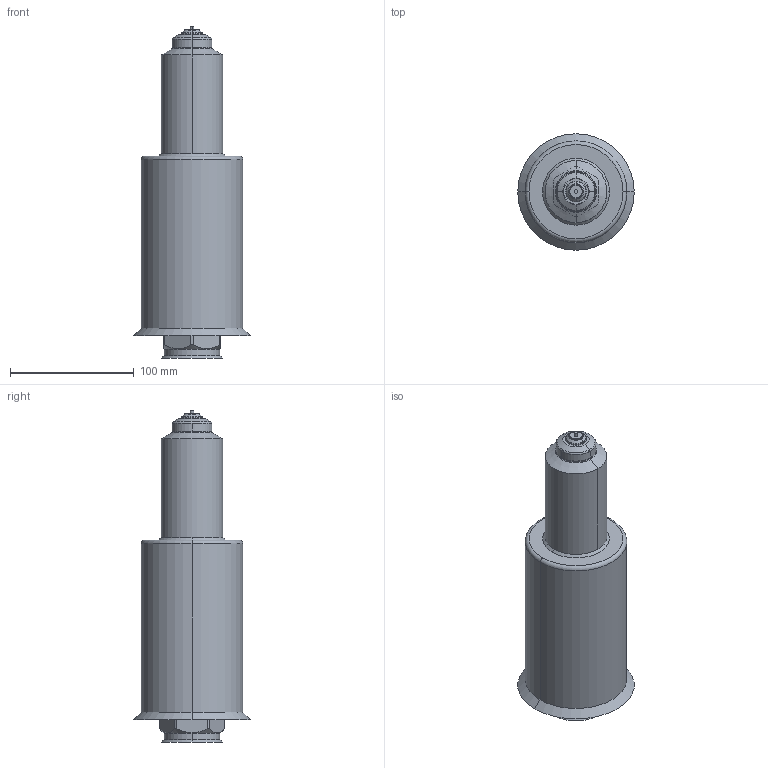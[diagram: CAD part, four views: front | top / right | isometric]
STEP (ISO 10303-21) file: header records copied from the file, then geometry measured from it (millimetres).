
FILE_DESCRIPTION (( 'STEP AP214' ), '1' );
FILE_NAME ('T20_OPEN_250_BAND.STEP', '2009-05-11T13:12:53', ( 'Synventive Molding Solutions' ), ( 'Synventive Molding Solutions' ), 'SwSTEP 2.0', 'SolidWorks 2008', '' );
FILE_SCHEMA (( 'AUTOMOTIVE_DESIGN' ));
Length unit declared in the file: millimetre
Products named in the file (1): T20_OPEN_250_BAND
Bounding box: 94 x 94 x 268 mm (x, y, z)
Volume: 1425459.3 mm3; surface area: 119886 mm2
Topology: 4 solids, 4 shells, 423 faces, 1081 edges, 673 vertices
Faces by surface type: plane 156, cylinder 150, torus 77, cone 32, sphere 4, bspline 4
Entity records: 18801 total; most frequent: CARTESIAN_POINT 3752, DIRECTION 2251, ORIENTED_EDGE 2154, EDGE_CURVE 1077, AXIS2_PLACEMENT_3D 884, VERTEX_POINT 673, LINE 483, VECTOR 483
